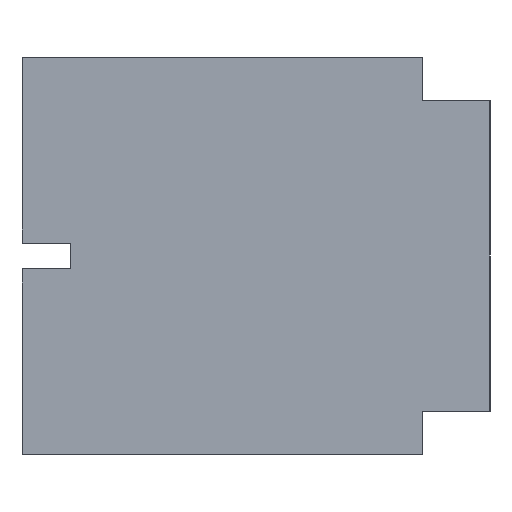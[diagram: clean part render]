
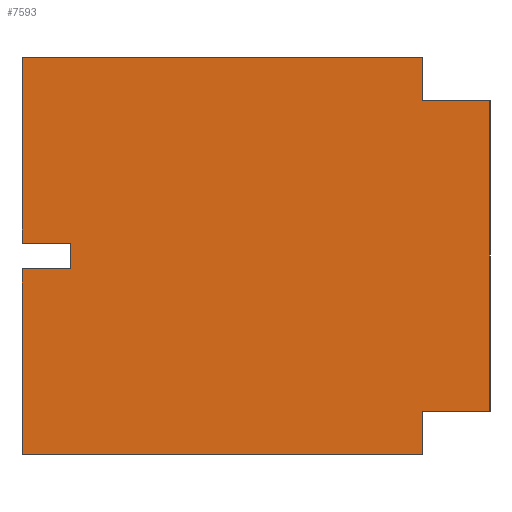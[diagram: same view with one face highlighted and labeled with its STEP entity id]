
A CAD part, left-side view. The second image highlights one B-rep face of the part: STEP entity #7593.
In plain terms, the highlighted planar face has unit normal (-1, 0, 0).
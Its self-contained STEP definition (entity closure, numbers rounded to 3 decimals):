
#165=DIRECTION('',(0.,-1.,0.));
#166=VECTOR('',#165,23.2);
#167=CARTESIAN_POINT('',(-17.75,13.55,-11.5));
#168=LINE('',#167,#166);
#357=DIRECTION('',(0.,0.,1.));
#358=VECTOR('',#357,1.5);
#359=CARTESIAN_POINT('',(-17.75,10.75,-0.75));
#360=LINE('',#359,#358);
#361=DIRECTION('',(0.,1.,0.));
#362=VECTOR('',#361,2.8);
#363=CARTESIAN_POINT('',(-17.75,10.75,0.75));
#364=LINE('',#363,#362);
#365=DIRECTION('',(0.,0.,-1.));
#366=VECTOR('',#365,2.5);
#367=CARTESIAN_POINT('',(-17.75,-9.65,11.5));
#368=LINE('',#367,#366);
#369=DIRECTION('',(0.,-1.,0.));
#370=VECTOR('',#369,3.9);
#371=CARTESIAN_POINT('',(-17.75,-9.65,9.));
#372=LINE('',#371,#370);
#373=DIRECTION('',(0.,0.,-1.));
#374=VECTOR('',#373,18.);
#375=CARTESIAN_POINT('',(-17.75,-13.55,9.));
#376=LINE('',#375,#374);
#377=DIRECTION('',(0.,1.,0.));
#378=VECTOR('',#377,3.9);
#379=CARTESIAN_POINT('',(-17.75,-13.55,-9.));
#380=LINE('',#379,#378);
#381=DIRECTION('',(0.,0.,-1.));
#382=VECTOR('',#381,2.5);
#383=CARTESIAN_POINT('',(-17.75,-9.65,-9.));
#384=LINE('',#383,#382);
#617=DIRECTION('',(0.,1.,0.));
#618=VECTOR('',#617,23.2);
#619=CARTESIAN_POINT('',(-17.75,-9.65,11.5));
#620=LINE('',#619,#618);
#1116=DIRECTION('',(0.,1.,0.));
#1117=VECTOR('',#1116,2.8);
#1118=CARTESIAN_POINT('',(-17.75,10.75,-0.75));
#1119=LINE('',#1118,#1117);
#1124=DIRECTION('',(0.,0.,-1.));
#1125=VECTOR('',#1124,10.75);
#1126=CARTESIAN_POINT('',(-17.75,13.55,-0.75));
#1127=LINE('',#1126,#1125);
#1913=DIRECTION('',(0.,0.,-1.));
#1914=VECTOR('',#1913,10.75);
#1915=CARTESIAN_POINT('',(-17.75,13.55,11.5));
#1916=LINE('',#1915,#1914);
#5541=CARTESIAN_POINT('',(-17.75,13.55,-11.5));
#5542=VERTEX_POINT('',#5541);
#5543=CARTESIAN_POINT('',(-17.75,-9.65,-11.5));
#5544=VERTEX_POINT('',#5543);
#5585=CARTESIAN_POINT('',(-17.75,-9.65,-9.));
#5586=VERTEX_POINT('',#5585);
#5587=CARTESIAN_POINT('',(-17.75,10.75,-0.75));
#5588=CARTESIAN_POINT('',(-17.75,10.75,0.75));
#5589=VERTEX_POINT('',#5587);
#5590=VERTEX_POINT('',#5588);
#5591=CARTESIAN_POINT('',(-17.75,13.55,0.75));
#5592=VERTEX_POINT('',#5591);
#5593=CARTESIAN_POINT('',(-17.75,13.55,11.5));
#5594=VERTEX_POINT('',#5593);
#5595=CARTESIAN_POINT('',(-17.75,-9.65,11.5));
#5596=VERTEX_POINT('',#5595);
#5597=CARTESIAN_POINT('',(-17.75,-9.65,9.));
#5598=VERTEX_POINT('',#5597);
#5599=CARTESIAN_POINT('',(-17.75,-13.55,9.));
#5600=VERTEX_POINT('',#5599);
#5601=CARTESIAN_POINT('',(-17.75,-13.55,-9.));
#5602=VERTEX_POINT('',#5601);
#5603=CARTESIAN_POINT('',(-17.75,13.55,-0.75));
#5604=VERTEX_POINT('',#5603);
#7565=CARTESIAN_POINT('',(-17.75,0.,0.));
#7566=DIRECTION('',(1.,0.,0.));
#7567=DIRECTION('',(0.,-1.,0.));
#7568=AXIS2_PLACEMENT_3D('',#7565,#7566,#7567);
#7569=PLANE('',#7568);
#7571=ORIENTED_EDGE('',*,*,#7570,.T.);
#7573=ORIENTED_EDGE('',*,*,#7572,.T.);
#7575=ORIENTED_EDGE('',*,*,#7574,.F.);
#7577=ORIENTED_EDGE('',*,*,#7576,.F.);
#7579=ORIENTED_EDGE('',*,*,#7578,.T.);
#7581=ORIENTED_EDGE('',*,*,#7580,.T.);
#7583=ORIENTED_EDGE('',*,*,#7582,.T.);
#7584=ORIENTED_EDGE('',*,*,#7508,.T.);
#7585=ORIENTED_EDGE('',*,*,#7558,.T.);
#7586=ORIENTED_EDGE('',*,*,#7270,.F.);
#7588=ORIENTED_EDGE('',*,*,#7587,.F.);
#7590=ORIENTED_EDGE('',*,*,#7589,.F.);
#7591=EDGE_LOOP('',(#7571,#7573,#7575,#7577,#7579,#7581,#7583,#7584,#7585,#7586,
#7588,#7590));
#7592=FACE_OUTER_BOUND('',#7591,.F.);
#7593=ADVANCED_FACE('',(#7592),#7569,.F.);
#7270=EDGE_CURVE('',#5542,#5544,#168,.T.);
#7508=EDGE_CURVE('',#5602,#5586,#380,.T.);
#7558=EDGE_CURVE('',#5586,#5544,#384,.T.);
#7570=EDGE_CURVE('',#5589,#5590,#360,.T.);
#7572=EDGE_CURVE('',#5590,#5592,#364,.T.);
#7574=EDGE_CURVE('',#5594,#5592,#1916,.T.);
#7576=EDGE_CURVE('',#5596,#5594,#620,.T.);
#7578=EDGE_CURVE('',#5596,#5598,#368,.T.);
#7580=EDGE_CURVE('',#5598,#5600,#372,.T.);
#7582=EDGE_CURVE('',#5600,#5602,#376,.T.);
#7587=EDGE_CURVE('',#5604,#5542,#1127,.T.);
#7589=EDGE_CURVE('',#5589,#5604,#1119,.T.);
